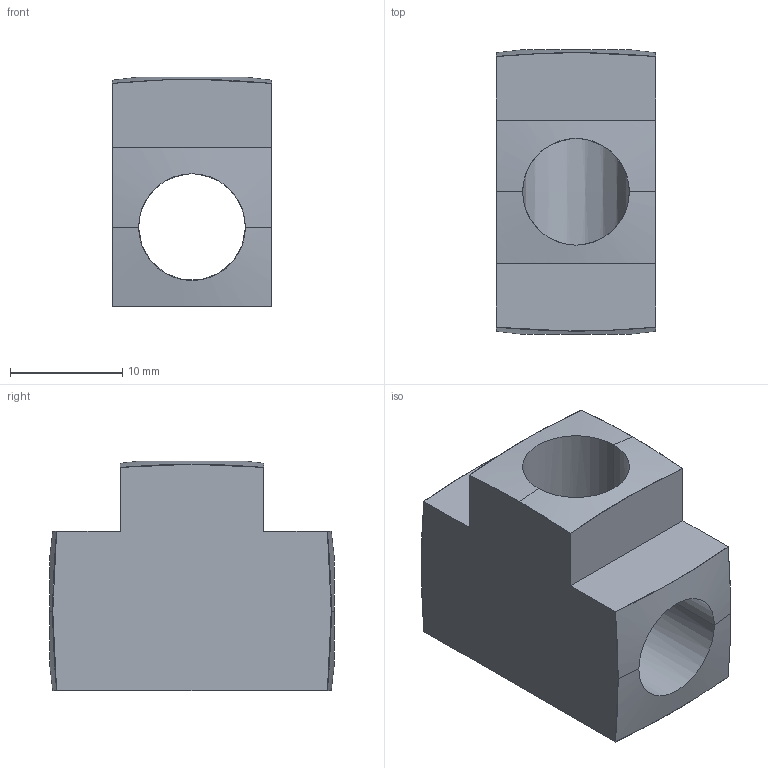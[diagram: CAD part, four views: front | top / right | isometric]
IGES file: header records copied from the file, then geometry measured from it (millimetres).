
Global section: file name: C:\Documents and Settings\Administrator\My Documents\PersonalProject\brasstee.igs; native system: AutoDesk Inventor R2.0 ; preprocessor: AutoDesk Inventor Iges Exporter R2.0; author: No Author specified; organization: No Organization specified; date: 20020115.182005; units: inch
Bounding box: 14.22 x 25.39 x 20.49 mm (x, y, z)
Surface area: 2892 mm2 (no closed solid volume)
Topology: 0 solids, 0 shells, 18 faces, 100 edges, 100 vertices
Faces by surface type: revolution 11, bspline 7
